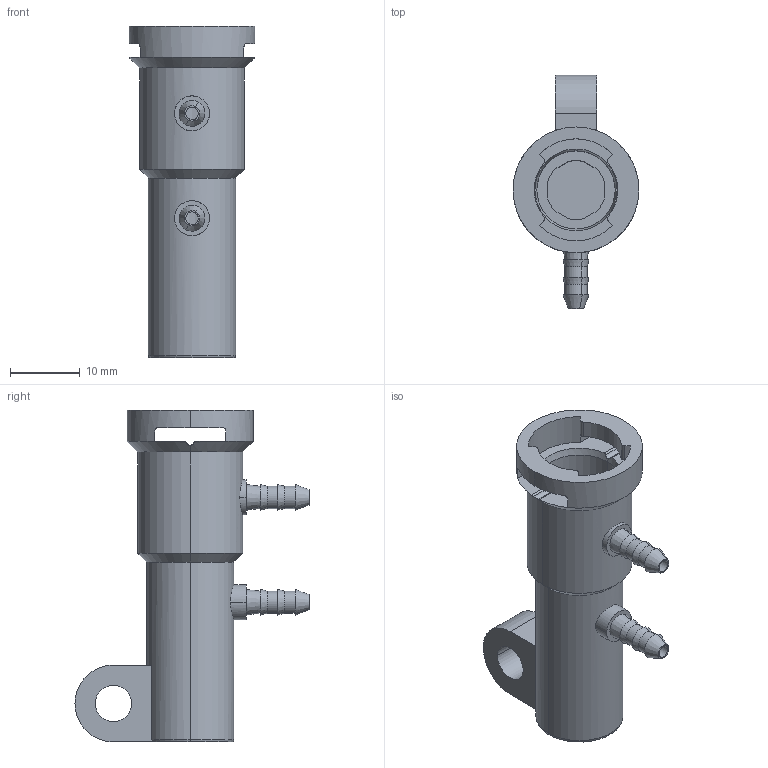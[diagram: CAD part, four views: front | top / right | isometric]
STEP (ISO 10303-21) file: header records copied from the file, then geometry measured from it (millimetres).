
FILE_DESCRIPTION(('CATIA V5 STEP Exchange'),'2;1');
FILE_NAME('G:\够快云库\系统集成开发部\1.部门成员\孙国\3D-stp打印件\1222\BPC0010158 阀体外壳.stp','2020-12-22T08:55:55+00:00',('none'),('none'),'CATIA Version 5 Release 20 GA (IN-10)','CATIA V5 STEP AP203','none');
FILE_SCHEMA(('CONFIG_CONTROL_DESIGN'));
Length unit declared in the file: millimetre
Products named in the file (1): 阀体外壳.3.4
Bounding box: 18 x 33.5 x 47.5 mm (x, y, z)
Volume: 4270.3 mm3; surface area: 4718.1 mm2
Topology: 1 solids, 1 shells, 131 faces, 337 edges, 216 vertices
Faces by surface type: cylinder 65, plane 35, cone 25, extrusion 6
Entity records: 4051 total; most frequent: CARTESIAN_POINT 1069, ORIENTED_EDGE 674, DIRECTION 464, EDGE_CURVE 337, VERTEX_POINT 216, AXIS2_PLACEMENT_3D 213, VECTOR 172, LINE 166
